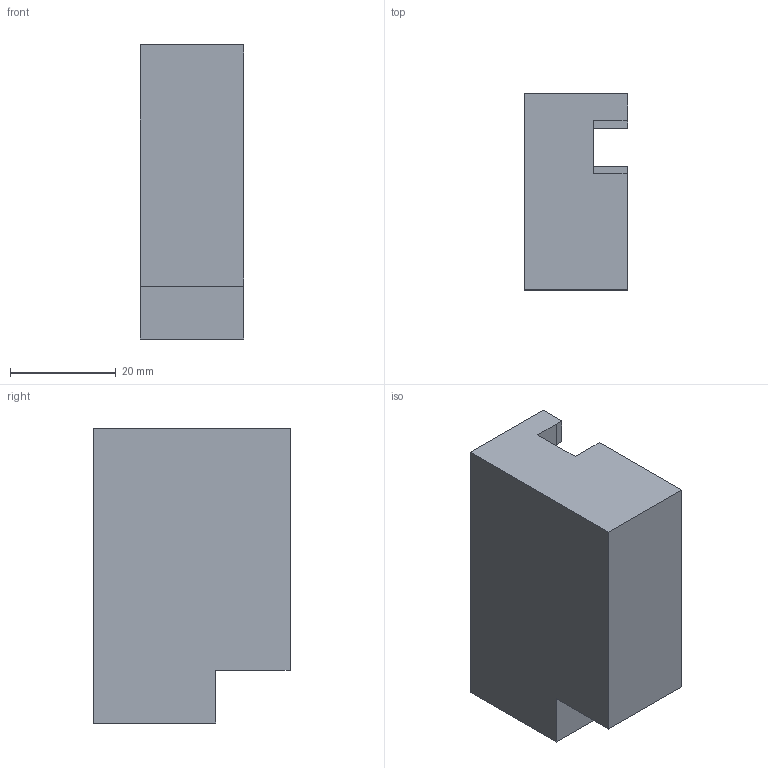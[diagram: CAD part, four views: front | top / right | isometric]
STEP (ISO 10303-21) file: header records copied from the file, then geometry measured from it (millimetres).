
FILE_DESCRIPTION(('CATIA V5 STEP Exchange'),'2;1');
FILE_NAME('D:\姚明阳\1、工装图纸\轻卡插管工装\轻卡\GZ-QKXFCG01_V2.stp','2024-07-22T05:11:44+00:00',('none'),('none'),'CATIA Version 5 Release 21 GA (IN-10)','CATIA V5 STEP AP214','none');
FILE_SCHEMA(('AUTOMOTIVE_DESIGN { 1 0 10303 214 1 1 1 1 }'));
Length unit declared in the file: millimetre
Products named in the file (1): 阀体固定座.1.1
Bounding box: 19.5 x 37 x 55.5 mm (x, y, z)
Volume: 30637.2 mm3; surface area: 8480.3 mm2
Topology: 1 solids, 1 shells, 47 faces, 138 edges, 93 vertices
Faces by surface type: plane 36, cylinder 11
Entity records: 1528 total; most frequent: CARTESIAN_POINT 284, ORIENTED_EDGE 276, DIRECTION 206, EDGE_CURVE 138, VECTOR 108, LINE 108, VERTEX_POINT 93, AXIS2_PLACEMENT_3D 62
